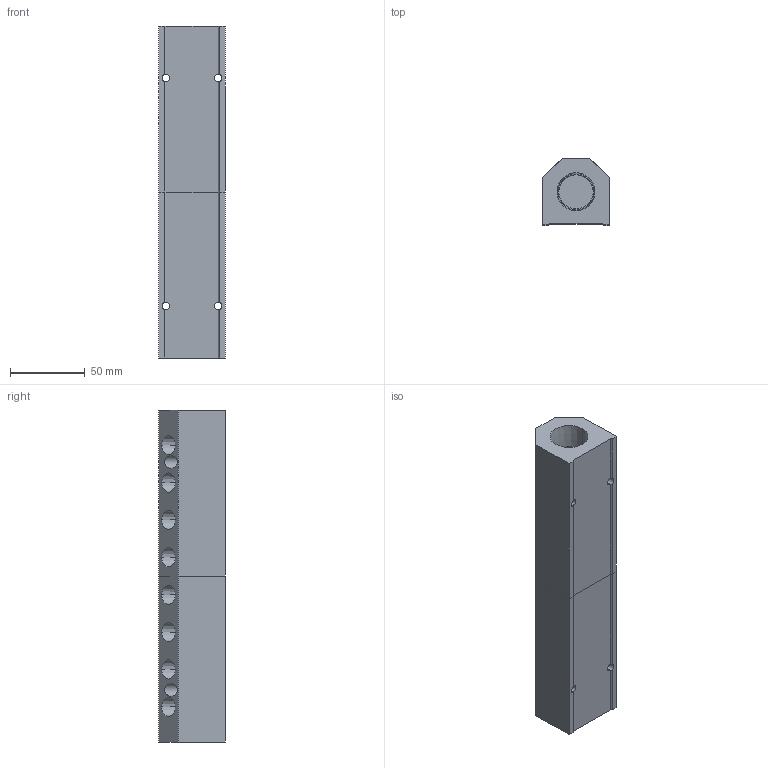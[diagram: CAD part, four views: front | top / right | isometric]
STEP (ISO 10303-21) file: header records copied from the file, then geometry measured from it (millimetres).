
FILE_DESCRIPTION (( 'STEP AP214' ), '1' );
FILE_NAME ('ALM8BD-N4N12-222RB.step', '2022-02-06T14:18:56', ( '' ), ( '' ), 'SwSTEP 2.0', 'SolidWorks 2020', '' );
FILE_SCHEMA (( 'AUTOMOTIVE_DESIGN' ));
Length unit declared in the file: millimetre
Products named in the file (1): ALM8BD-N4N12-222RB
Bounding box: 44.5 x 44.5 x 222 mm (x, y, z)
Volume: 274692.2 mm3; surface area: 64928.8 mm2
Topology: 2 solids, 2 shells, 379 faces, 1007 edges, 666 vertices
Faces by surface type: plane 237, bspline 74, cone 44, cylinder 24
Entity records: 21310 total; most frequent: CARTESIAN_POINT 8691, ORIENTED_EDGE 2014, DIRECTION 1495, EDGE_CURVE 1007, VECTOR 707, LINE 707, VERTEX_POINT 666, EDGE_LOOP 453
